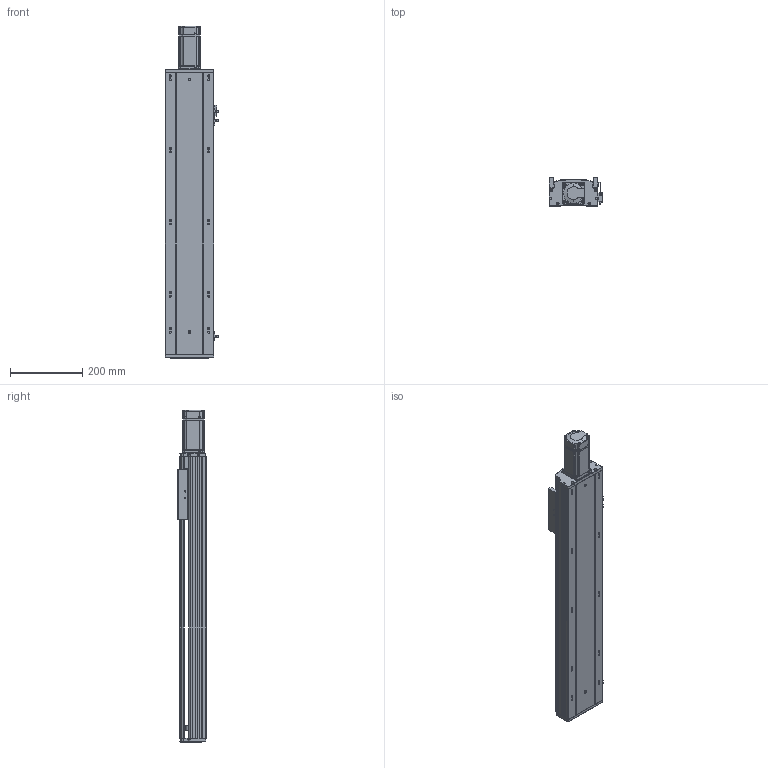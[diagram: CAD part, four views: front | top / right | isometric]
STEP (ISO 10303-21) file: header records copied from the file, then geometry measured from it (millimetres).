
FILE_DESCRIPTION (( 'STEP AP203' ), '1' );
FILE_NAME ('RY140Q-L2010-700-MK.SLDASM_0550.step', '2021-05-27T03:21:57', ( '盈信电脑' ), ( '东莞市道滘镇水果街19号' ), 'SwSTEP 2.0', 'SolidWorks 2016', '' );
FILE_SCHEMA (( 'CONFIG_CONTROL_DESIGN' ));
Length unit declared in the file: millimetre
Products named in the file (14): RY140Q-L2010-700-MK.SLDASM_0550; 15; RY140綴裔啣; RY120外置感应片(140共用）; RY140Q臏賑輸(20佪裝-J); 滅袉蝶18-15; 侂狟400W侜督萇儂; 鞠褒坶踡蹟譫BK12 ; RY140Q萇儂傷盓傅釱FK12(80.5酗M5); RY140Q-700-MK倰第奻裔啣_0550; 滅袉蝶18-10; RY140Q-700-MK倰第菁釱_0550; RY140ヶ裔啣; 覜茼ん672
Assembly tree (16 placements, depth 3):
  RY140Q-L2010-700-MK.SLDASM_0550
    RY140Q-700-MK倰第菁釱_0550
    RY140Q臏賑輸(20佪裝-J)
    RY140Q-700-MK倰第奻裔啣_0550
    RY140ヶ裔啣
    侂狟400W侜督萇儂
      15
    鞠褒坶踡蹟譫BK12 
    RY140綴裔啣
    覜茼ん672  x3
    RY120外置感应片(140共用）
    RY140Q萇儂傷盓傅釱FK12(80.5酗M5)
    滅袉蝶18-10
    滅袉蝶18-15  x2
Bounding box: 148.7 x 78 x 919.5 mm (x, y, z)
Volume: 2767382.3 mm3; surface area: 966955.5 mm2
Topology: 15 solids, 15 shells, 2049 faces, 5644 edges, 3621 vertices
Faces by surface type: plane 1082, cylinder 698, cone 184, bspline 85
Entity records: 67699 total; most frequent: CARTESIAN_POINT 16254, ORIENTED_EDGE 10612, DIRECTION 10076, EDGE_CURVE 5306, VERTEX_POINT 3481, LINE 3444, VECTOR 3444, AXIS2_PLACEMENT_3D 3316
